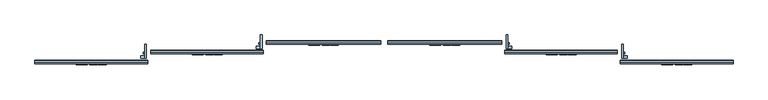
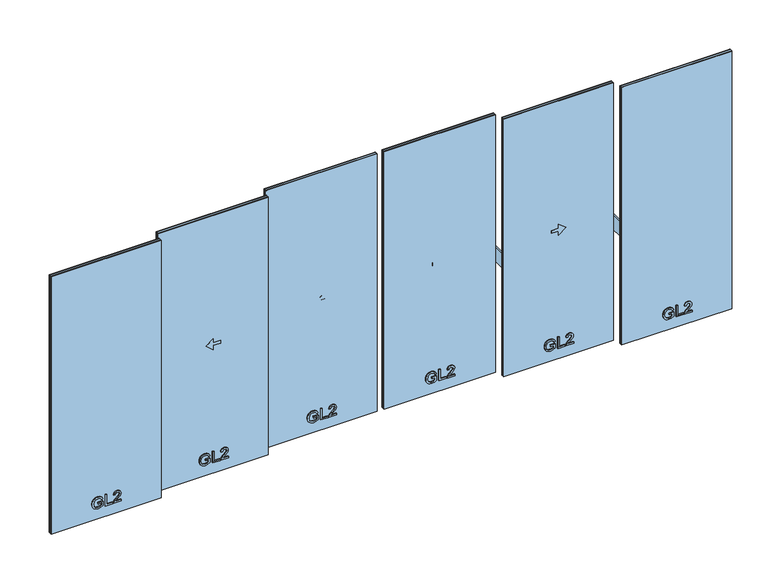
"""IFC4 building model written with IfcOpenShell, lengths in millimetres: window geometry, XL_XHS-9-3E_Metaglas : XL_XHS-9-3E_Metaglas."""

import ifcopenshell
import ifcopenshell.guid

model = None  # the IFC model being written
_history = None  # IfcOwnerHistory: only IFC2X3 demands one
_inside = {}  # id of a spatial element -> (the spatial element, [elements in it])
_under = {}  # id of a project, library or spatial element -> (it, [spatial elements below it])
_declared = {}  # id of a project -> (the project, [libraries it declares])
_typed = {}  # id of a type object -> (the type object, [elements of that type])
_made_of = {}  # id of a material, layer set ... -> (it, [elements and type objects made of it])


def new_model(schema):
    """Start an empty IFC model of exactly this schema.

    Asked for "IFC4X3", IfcOpenShell would pick the latest addendum, in which some entities
    have other attributes; the version numbers below select the first issue.
    IFC2X3 requires an IfcOwnerHistory on every rooted entity: one is made here for all.
    """
    global model, _history
    if schema == "IFC4X3":
        model = ifcopenshell.file(schema_version=(4, 3, 0, 0))
    else:
        model = ifcopenshell.file(schema=schema)
    _inside.clear()
    _under.clear()
    _declared.clear()
    _typed.clear()
    _made_of.clear()
    _history = None
    if model.schema == "IFC2X3":
        org = make("IfcOrganization", Name="unknown")
        user = make(
            "IfcPersonAndOrganization",
            ThePerson=make("IfcPerson", FamilyName="unknown"),
            TheOrganization=org,
        )
        app = make(
            "IfcApplication",
            ApplicationDeveloper=org,
            Version="unknown",
            ApplicationFullName="unknown",
            ApplicationIdentifier="unknown",
        )
        _history = make(
            "IfcOwnerHistory",
            OwningUser=user,
            OwningApplication=app,
            ChangeAction="ADDED",
            CreationDate=0,
        )
    return model


def make(cls, **values):
    """One entity of the class cls with the attributes given. An attribute that is None is left unset."""
    return model.create_entity(
        cls, **{name: value for name, value in values.items() if value is not None}
    )


def rooted(cls, **values):
    """An entity with a GlobalId (a new one), such as an element, a storey or a relation."""
    return make(cls, GlobalId=ifcopenshell.guid.new(), OwnerHistory=_history, **values)


def si_unit(unit_type, name, prefix=None):
    """IfcSIUnit, for example si_unit("LENGTHUNIT", "METRE", prefix="MILLI")."""
    return make("IfcSIUnit", UnitType=unit_type, Prefix=prefix, Name=name)


def assignment(units):
    """IfcUnitAssignment: the units of a project."""
    return None if units is None else make("IfcUnitAssignment", Units=units)


def point(xyz):
    """IfcCartesianPoint."""
    return None if xyz is None else make("IfcCartesianPoint", Coordinates=xyz)


def direction(xyz):
    """IfcDirection."""
    return None if xyz is None else make("IfcDirection", DirectionRatios=xyz)


def frame(location, z_axis=None, x_axis=None):
    """IfcAxis2Placement3D, a coordinate frame: its origin and axes. An axis left out is left unset."""
    return make(
        "IfcAxis2Placement3D",
        Location=point(location),
        Axis=direction(z_axis),
        RefDirection=direction(x_axis),
    )


def frame_2d(location, x_axis=None):
    """IfcAxis2Placement2D, a coordinate frame in the plane: its origin and x axis."""
    return make(
        "IfcAxis2Placement2D", Location=point(location), RefDirection=direction(x_axis)
    )


def origin():
    """The frame at (0, 0, 0) with its axes left unset."""
    return frame((0.0, 0.0, 0.0))


def place(relative_to, where):
    """IfcLocalPlacement: puts the frame where relative to a parent placement (None: the world)."""
    return make(
        "IfcLocalPlacement", PlacementRelTo=relative_to, RelativePlacement=where
    )


def context(
    kind, dimensions, precision=None, world=None, true_north=None, identifier=None
):
    """IfcGeometricRepresentationContext, for example the 3D "Model" context."""
    return make(
        "IfcGeometricRepresentationContext",
        ContextIdentifier=identifier,
        ContextType=kind,
        CoordinateSpaceDimension=dimensions,
        Precision=precision,
        WorldCoordinateSystem=world,
        TrueNorth=true_north,
    )


def project(units=None, contexts=None):
    """IfcProject with its units and contexts."""
    return rooted(
        "IfcProject",
        Name="project",
        RepresentationContexts=contexts,
        UnitsInContext=assignment(units),
    )


def spatial(cls, under=None, at=None, **own):
    """A site, building, storey or space (cls), placed at a placement, below another one or the project."""
    s = rooted(cls, ObjectPlacement=at, **own)
    if under is not None:
        _under.setdefault(under.id(), (under, []))[1].append(s)
    return s


def polyline(points):
    """IfcPolyline through the points."""
    return make("IfcPolyline", Points=[point(p) for p in points])


def circle_curve(where, radius):
    """IfcCircle in the frame where."""
    return make("IfcCircle", Position=where, Radius=radius)


def trimmed(basis, trim1, trim2, sense, master):
    """IfcTrimmedCurve: the piece of a basis curve between two trims."""
    return make(
        "IfcTrimmedCurve",
        BasisCurve=basis,
        Trim1=trim1,
        Trim2=trim2,
        SenseAgreement=sense,
        MasterRepresentation=master,
    )


def segment(curve, same_sense, transition):
    """IfcCompositeCurveSegment."""
    return make(
        "IfcCompositeCurveSegment",
        Transition=transition,
        SameSense=same_sense,
        ParentCurve=curve,
    )


def composite_curve(segments, self_intersect=None):
    """IfcCompositeCurve: segments joined end to end."""
    return make("IfcCompositeCurve", Segments=segments, SelfIntersect=self_intersect)


def outline(outer, holes=None, kind="AREA"):
    """IfcArbitraryClosedProfileDef: a profile drawn as a closed curve; with holes, ...WithVoids."""
    if holes is None:
        return make("IfcArbitraryClosedProfileDef", ProfileType=kind, OuterCurve=outer)
    return make(
        "IfcArbitraryProfileDefWithVoids",
        ProfileType=kind,
        OuterCurve=outer,
        InnerCurves=holes,
    )


def extrude(swept, where, along, depth):
    """IfcExtrudedAreaSolid: the profile swept, set in the frame where, extruded along a direction by depth."""
    return make(
        "IfcExtrudedAreaSolid",
        SweptArea=swept,
        Position=where,
        ExtrudedDirection=direction(along),
        Depth=depth,
    )


def shape(context_of_items, identifier, shape_type, items):
    """IfcShapeRepresentation: the items that make up one representation, for example the "Body"."""
    return make(
        "IfcShapeRepresentation",
        ContextOfItems=context_of_items,
        RepresentationIdentifier=identifier,
        RepresentationType=shape_type,
        Items=items,
    )


def source(mapping_origin, context_of_items, identifier, shape_type, items):
    """IfcRepresentationMap: a shape defined once, which mapped items show again and again."""
    return make(
        "IfcRepresentationMap",
        MappingOrigin=mapping_origin,
        MappedRepresentation=shape(context_of_items, identifier, shape_type, items),
    )


def transform(
    local_origin,
    x_axis=None,
    y_axis=None,
    z_axis=None,
    scale=None,
    scale2=None,
    scale3=None,
    uniform=True,
):
    """IfcCartesianTransformationOperator3D, or its non-uniform kind. x_axis, y_axis, z_axis: its Axis1, 2, 3."""
    if uniform:
        return make(
            "IfcCartesianTransformationOperator3D",
            Axis1=direction(x_axis),
            Axis2=direction(y_axis),
            LocalOrigin=point(local_origin),
            Scale=scale,
            Axis3=direction(z_axis),
        )
    return make(
        "IfcCartesianTransformationOperator3DnonUniform",
        Axis1=direction(x_axis),
        Axis2=direction(y_axis),
        LocalOrigin=point(local_origin),
        Scale=scale,
        Axis3=direction(z_axis),
        Scale2=scale2,
        Scale3=scale3,
    )


def mapped(mapping_source, mapping_target):
    """IfcMappedItem: shows the shape of a source again, moved by a transform."""
    return make(
        "IfcMappedItem", MappingSource=mapping_source, MappingTarget=mapping_target
    )


def made_of(thing, what):
    """Note that an element or type object is made of a material, layer set ...; save() writes the relation."""
    if what is not None:
        _made_of.setdefault(what.id(), (what, []))[1].append(thing)
    return thing


def element(
    cls,
    number,
    at=None,
    inside=None,
    cuts=None,
    type_object=None,
    material=None,
    context=None,
    identifier="Body",
    shape_type=None,
    held_by="IfcProductDefinitionShape",
    body=None,
    shapes=None,
    **own,
):
    """One element of the class cls, such as IfcWall. Its Tag is "e" and its number.

    at: its placement. inside: the storey or other place that contains it. cuts: it is an
    opening in that element (IfcRelVoidsElement). A single representation is given by context,
    identifier, shape_type and body (its items); several are given by shapes. held_by: the class
    of the entity that holds the representations. save() writes the other relations.
    """
    e = rooted(cls, Tag="e%d" % number, ObjectPlacement=at, **own)
    if body is not None:
        shapes = [shape(context, identifier, shape_type, body)]
    if shapes is not None:
        e.Representation = make(held_by, Representations=shapes)
    if inside is not None:
        _inside.setdefault(inside.id(), (inside, []))[1].append(e)
    if cuts is not None:
        rooted(
            "IfcRelVoidsElement", RelatingBuildingElement=cuts, RelatedOpeningElement=e
        )
    if type_object is not None:
        _typed.setdefault(type_object.id(), (type_object, []))[1].append(e)
    return made_of(e, material)


def aggregate(whole, parts):
    """IfcRelAggregates: a whole, such as a stair, and the parts it consists of."""
    return rooted("IfcRelAggregates", RelatingObject=whole, RelatedObjects=parts)


def save(model, path):
    """Write the relations noted so far, then the file.

    IfcRelAggregates (storeys below a building ...), IfcRelContainedInSpatialStructure (elements
    in a storey), IfcRelDefinesByType, IfcRelAssociatesMaterial and IfcRelDeclares: one each for
    every whole, place, type object, material and project.
    """
    for whole, parts in _under.values():
        aggregate(whole, parts)
    for where, things in _inside.values():
        rooted(
            "IfcRelContainedInSpatialStructure",
            RelatedElements=things,
            RelatingStructure=where,
        )
    for kind, things in _typed.values():
        rooted("IfcRelDefinesByType", RelatedObjects=things, RelatingType=kind)
    for what, things in _made_of.values():
        rooted("IfcRelAssociatesMaterial", RelatedObjects=things, RelatingMaterial=what)
    for by, libraries in _declared.values():
        rooted("IfcRelDeclares", RelatingContext=by, RelatedDefinitions=libraries)
    model.write(path)


def window_bfaaae80(model_context):
    return source(origin(), model_context, "Body", "SweptSolid", [
        extrude(outline(polyline([(1263.3, 1416.75), (1238.3, 1416.75), (1238.3, 1479.05), (1201.4, 1479.05), (1250.8, 1541.35), (1300.2, 1479.05), (1263.3, 1479.05), (1263.3, 1416.75)])), frame((0.0, 56.8, 0.0), z_axis=(0.0, 1.0, 0.0), x_axis=(0.0, 0.0, 1.0)), (0.0, 0.0, 1.0), 10.0),
        extrude(outline(polyline([(1009.55, 62.8), (1948.55, 62.8), (1948.55, 56.8), (1009.55, 56.8), (1009.55, 62.8)])), frame((0.0, 0.0, 85.6), z_axis=(0.0, 0.0, 1.0), x_axis=(1.0, 0.0, 0.0)), (0.0, 0.0, 1.0), 2330.4),
        extrude(outline(polyline([(2416.0, 1948.55), (2416.0, 1009.55), (85.6, 1009.55), (85.6, 1948.55), (2416.0, 1948.55)]), holes=[polyline([(98.6, 1935.55), (98.6, 1022.55), (2403.0, 1022.55), (2403.0, 1935.55), (98.6, 1935.55)])]), frame((0.0, 62.8, 0.0), z_axis=(0.0, 1.0, 0.0), x_axis=(0.0, 0.0, 1.0)), (0.0, 0.0, 1.0), 17.0),
        extrude(outline(polyline([(224.3483029, 1406.0622122), (224.3483029, 1434.3155494), (206.1994578, 1434.3155494), (199.3200645, 1421.5990951), (196.0949657, 1404.4190059), (200.3746595, 1385.2768794), (213.4712586, 1371.5426183), (235.3602373, 1366.821466), (255.0787122, 1370.7455406), (264.7540087, 1377.208001), (271.8663939, 1388.146359), (274.576458, 1404.2228022), (272.0625977, 1418.3372081), (265.3671454, 1428.1228691), (253.754337, 1433.8495655), (257.0162241, 1445.4255856), (273.6322275, 1437.8349538), (283.5650414, 1424.0639045), (287.1334967, 1404.4190059), (285.5945237, 1390.3291255), (280.9776047, 1377.9805532), (273.1938348, 1367.8423385), (262.1543093, 1360.3835311), (248.9933309, 1355.7942032), (234.8452025, 1354.2644272), (220.7982416, 1355.8003346), (208.1369696, 1360.4080566), (197.5818221, 1368.0293452), (189.8532345, 1378.6059526), (185.1167538, 1391.3377353), (183.5379269, 1405.42455), (187.5110524, 1426.7249176), (199.3568527, 1446.8725882), (236.9053417, 1446.8725882), (236.9053417, 1406.0622122), (224.3483029, 1406.0622122)])), frame((0.0, 46.8, 0.0), z_axis=(0.0, 1.0, 0.0), x_axis=(0.0, 0.0, 1.0)), (0.0, 0.0, 1.0), 10.0),
        extrude(outline(polyline([(185.1075567, 1467.2777762), (185.1075567, 1530.06297), (197.6645955, 1530.06297), (197.6645955, 1479.8348149), (285.5638669, 1479.8348149), (285.5638669, 1467.2777762), (185.1075567, 1467.2777762)])), frame((0.0, 46.8, 0.0), z_axis=(0.0, 1.0, 0.0), x_axis=(0.0, 0.0, 1.0)), (0.0, 0.0, 1.0), 10.0),
        extrude(outline(polyline([(197.6645955, 1603.8355728), (197.6645955, 1554.5148599), (204.0534795, 1560.1802427), (216.1322717, 1574.6257423), (233.3368863, 1592.6151719), (245.6486704, 1600.0341255), (257.5557843, 1602.2659429), (268.506405, 1600.1966067), (277.5195139, 1593.988598), (283.5527787, 1584.2305281), (285.5638669, 1571.5110081), (283.7551137, 1558.8834586), (278.3288543, 1549.1069946), (269.4567669, 1542.5249726), (257.3105297, 1539.4807491), (255.7408998, 1552.0377878), (268.4205659, 1557.3230258), (273.0068281, 1571.241228), (268.3102013, 1584.5953444), (256.7954949, 1589.7089041), (242.5707244, 1584.3010388), (221.6505016, 1562.6327893), (207.0946373, 1546.8997026), (193.7650464, 1539.2600199), (185.1075567, 1537.9111192), (185.1075567, 1603.8355728), (197.6645955, 1603.8355728)])), frame((0.0, 46.8, 0.0), z_axis=(0.0, 1.0, 0.0), x_axis=(0.0, 0.0, 1.0)), (0.0, 0.0, 1.0), 10.0),
        extrude(outline(polyline([(1009.55, 62.8), (1948.55, 62.8), (1948.55, 59.8), (1009.55, 59.8), (1009.55, 62.8)])), frame((0.0, 0.0, 85.6), z_axis=(0.0, 0.0, 1.0), x_axis=(1.0, 0.0, 0.0)), (0.0, 0.0, 1.0), 2330.4),
        extrude(outline(polyline([(1009.55, 59.8), (1948.55, 59.8), (1948.55, 56.8), (1009.55, 56.8), (1009.55, 59.8)])), frame((0.0, 0.0, 85.6), z_axis=(0.0, 0.0, 1.0), x_axis=(1.0, 0.0, 0.0)), (0.0, 0.0, 1.0), 2330.4),
        extrude(outline(polyline([(1009.55, 85.8), (1948.55, 85.8), (1948.55, 82.8), (1009.55, 82.8), (1009.55, 85.8)])), frame((0.0, 0.0, 85.6), z_axis=(0.0, 0.0, 1.0), x_axis=(1.0, 0.0, 0.0)), (0.0, 0.0, 1.0), 2330.4),
        extrude(outline(polyline([(1009.55, 82.8), (1948.55, 82.8), (1948.55, 79.8), (1009.55, 79.8), (1009.55, 82.8)])), frame((0.0, 0.0, 85.6), z_axis=(0.0, 0.0, 1.0), x_axis=(1.0, 0.0, 0.0)), (0.0, 0.0, 1.0), 2330.4),
        extrude(outline(composite_curve([segment(trimmed(circle_curve(frame_2d((27.9933183, 1063.3761618)), 10.0), [point((17.9933183, 1063.3761618))], [point((37.9933183, 1063.3761618))], False, "CARTESIAN"), True, "CONTINUOUS"), segment(trimmed(circle_curve(frame_2d((27.9933183, 1063.3761618)), 10.0), [point((37.9933183, 1063.3761618))], [point((17.9933183, 1063.3761618))], False, "CARTESIAN"), True, "CONTINUOUS")], self_intersect=False)), frame((1999.3, 0.0, 0.0), z_axis=(1.0, 0.0, 0.0), x_axis=(0.0, 1.0, 0.0)), (0.0, 0.0, 1.0), 33.0),
        extrude(outline(polyline([(1999.3, 53.9933183), (1999.3, 67.9933183), (2012.3, 67.9933183), (2012.3, 53.9933183), (1999.3, 53.9933183)])), frame((0.0, 0.0, 1080.3761618), z_axis=(0.0, 0.0, 1.0), x_axis=(1.0, 0.0, 0.0)), (0.0, 0.0, 1.0), 65.0),
        extrude(outline(polyline([(1999.3, 132.9933183), (1999.3, 15.9933183), (1985.3, 15.9933183), (1985.3, 132.9933183), (1999.3, 132.9933183)])), frame((0.0, 0.0, 1037.8761618), z_axis=(0.0, 0.0, 1.0), x_axis=(1.0, 0.0, 0.0)), (0.0, 0.0, 1.0), 127.0),
        extrude(outline(polyline([(1238.3, -1415.65), (1263.3, -1415.65), (1263.3, -1477.95), (1300.2, -1477.95), (1250.8, -1540.25), (1201.4, -1477.95), (1238.3, -1477.95), (1238.3, -1415.65)])), frame((0.0, 56.8013279, 0.0), z_axis=(0.0, 1.0, 0.0), x_axis=(0.0, 0.0, 1.0)), (0.0, 0.0, 1.0), 10.0),
        extrude(outline(composite_curve([segment(trimmed(circle_curve(frame_2d((27.9835782, 1063.3761618)), 10.0), [point((17.9835782, 1063.3761618))], [point((37.9835782, 1063.3761618))], False, "CARTESIAN"), True, "CONTINUOUS"), segment(trimmed(circle_curve(frame_2d((27.9835782, 1063.3761618)), 10.0), [point((37.9835782, 1063.3761618))], [point((17.9835782, 1063.3761618))], False, "CARTESIAN"), True, "CONTINUOUS")], self_intersect=False)), frame((-2032.3, 0.0, 0.0), z_axis=(1.0, 0.0, 0.0), x_axis=(0.0, 1.0, 0.0)), (0.0, 0.0, 1.0), 33.0),
        extrude(outline(polyline([(-1999.3, 67.9835782), (-1999.3, 53.9835782), (-2012.3, 53.9835782), (-2012.3, 67.9835782), (-1999.3, 67.9835782)])), frame((0.0, 0.0, 1080.3761618), z_axis=(0.0, 0.0, 1.0), x_axis=(1.0, 0.0, 0.0)), (0.0, 0.0, 1.0), 65.0),
        extrude(outline(polyline([(-1985.3, 132.9835782), (-1985.3, 15.9835782), (-1999.3, 15.9835782), (-1999.3, 132.9835782), (-1985.3, 132.9835782)])), frame((0.0, 0.0, 1037.8761618), z_axis=(0.0, 0.0, 1.0), x_axis=(1.0, 0.0, 0.0)), (0.0, 0.0, 1.0), 127.0),
        extrude(outline(polyline([(-1948.55, 62.8013279), (-1007.35, 62.8013279), (-1007.35, 56.8013279), (-1948.55, 56.8013279), (-1948.55, 62.8013279)])), frame((0.0, 0.0, 85.6), z_axis=(0.0, 0.0, 1.0), x_axis=(1.0, 0.0, 0.0)), (0.0, 0.0, 1.0), 2330.4),
        extrude(outline(polyline([(2416.0, -1007.35), (2416.0, -1948.55), (85.6, -1948.55), (85.6, -1007.35), (2416.0, -1007.35)]), holes=[polyline([(98.6, -1020.35), (98.6, -1935.55), (2403.0, -1935.55), (2403.0, -1020.35), (98.6, -1020.35)])]), frame((0.0, 62.8013279, 0.0), z_axis=(0.0, 1.0, 0.0), x_axis=(0.0, 0.0, 1.0)), (0.0, 0.0, 1.0), 17.0),
        extrude(outline(polyline([(224.3483029, -1550.9377878), (224.3483029, -1522.6844506), (206.1994578, -1522.6844506), (199.3200645, -1535.4009049), (196.0949657, -1552.5809941), (200.3746595, -1571.7231206), (213.4712586, -1585.4573817), (235.3602373, -1590.178534), (255.0787122, -1586.2544594), (264.7540087, -1579.791999), (271.8663939, -1568.853641), (274.576458, -1552.7771978), (272.0625977, -1538.6627919), (265.3671454, -1528.8771309), (253.754337, -1523.1504345), (257.0162241, -1511.5744144), (273.6322275, -1519.1650462), (283.5650414, -1532.9360955), (287.1334967, -1552.5809941), (285.5945237, -1566.6708745), (280.9776047, -1579.0194468), (273.1938348, -1589.1576615), (262.1543093, -1596.6164689), (248.9933309, -1601.2057968), (234.8452025, -1602.7355728), (220.7982416, -1601.1996654), (208.1369696, -1596.5919434), (197.5818221, -1588.9706548), (189.8532345, -1578.3940474), (185.1167538, -1565.6622647), (183.5379269, -1551.57545), (187.5110524, -1530.2750824), (199.3568527, -1510.1274118), (236.9053417, -1510.1274118), (236.9053417, -1550.9377878), (224.3483029, -1550.9377878)])), frame((0.0, 46.8013279, 0.0), z_axis=(0.0, 1.0, 0.0), x_axis=(0.0, 0.0, 1.0)), (0.0, 0.0, 1.0), 10.0),
        extrude(outline(polyline([(185.1075567, -1489.7222238), (185.1075567, -1426.93703), (197.6645955, -1426.93703), (197.6645955, -1477.1651851), (285.5638669, -1477.1651851), (285.5638669, -1489.7222238), (185.1075567, -1489.7222238)])), frame((0.0, 46.8013279, 0.0), z_axis=(0.0, 1.0, 0.0), x_axis=(0.0, 0.0, 1.0)), (0.0, 0.0, 1.0), 10.0),
        extrude(outline(polyline([(197.6645955, -1353.1644272), (197.6645955, -1402.4851401), (204.0534795, -1396.8197573), (216.1322717, -1382.3742577), (233.3368863, -1364.3848281), (245.6486704, -1356.9658745), (257.5557843, -1354.7340571), (268.506405, -1356.8033933), (277.5195139, -1363.011402), (283.5527787, -1372.7694719), (285.5638669, -1385.4889919), (283.7551137, -1398.1165414), (278.3288543, -1407.8930054), (269.4567669, -1414.4750274), (257.3105297, -1417.5192509), (255.7408998, -1404.9622122), (268.4205659, -1399.6769742), (273.0068281, -1385.758772), (268.3102013, -1372.4046556), (256.7954949, -1367.2910959), (242.5707244, -1372.6989612), (221.6505016, -1394.3672107), (207.0946373, -1410.1002974), (193.7650464, -1417.7399801), (185.1075567, -1419.0888808), (185.1075567, -1353.1644272), (197.6645955, -1353.1644272)])), frame((0.0, 46.8013279, 0.0), z_axis=(0.0, 1.0, 0.0), x_axis=(0.0, 0.0, 1.0)), (0.0, 0.0, 1.0), 10.0),
        extrude(outline(polyline([(-1948.55, 62.8013279), (-1007.35, 62.8013279), (-1007.35, 59.8013279), (-1948.55, 59.8013279), (-1948.55, 62.8013279)])), frame((0.0, 0.0, 85.6), z_axis=(0.0, 0.0, 1.0), x_axis=(1.0, 0.0, 0.0)), (0.0, 0.0, 1.0), 2330.4),
        extrude(outline(polyline([(-1948.55, 59.8013279), (-1007.35, 59.8013279), (-1007.35, 56.8013279), (-1948.55, 56.8013279), (-1948.55, 59.8013279)])), frame((0.0, 0.0, 85.6), z_axis=(0.0, 0.0, 1.0), x_axis=(1.0, 0.0, 0.0)), (0.0, 0.0, 1.0), 2330.4),
        extrude(outline(polyline([(-1948.55, 85.8013279), (-1007.35, 85.8013279), (-1007.35, 82.8013279), (-1948.55, 82.8013279), (-1948.55, 85.8013279)])), frame((0.0, 0.0, 85.6), z_axis=(0.0, 0.0, 1.0), x_axis=(1.0, 0.0, 0.0)), (0.0, 0.0, 1.0), 2330.4),
        extrude(outline(polyline([(-1948.55, 82.8013279), (-1007.35, 82.8013279), (-1007.35, 79.8013279), (-1948.55, 79.8013279), (-1948.55, 82.8013279)])), frame((0.0, 0.0, 85.6), z_axis=(0.0, 0.0, 1.0), x_axis=(1.0, 0.0, 0.0)), (0.0, 0.0, 1.0), 2330.4),
        extrude(outline(polyline([(1974.05, -22.0486721), (2916.0, -22.0486721), (2916.0, -28.0486721), (1974.05, -28.0486721), (1974.05, -22.0486721)])), frame((0.0, 0.0, 85.6), z_axis=(0.0, 0.0, 1.0), x_axis=(1.0, 0.0, 0.0)), (0.0, 0.0, 1.0), 2330.4),
        extrude(outline(polyline([(2416.0, 2916.0), (2416.0, 1974.05), (85.6, 1974.05), (85.6, 2916.0), (2416.0, 2916.0)]), holes=[polyline([(98.6, 2903.0), (98.6, 1987.05), (2403.0, 1987.05), (2403.0, 2903.0), (98.6, 2903.0)])]), frame((0.0, -22.0486721, 0.0), z_axis=(0.0, 1.0, 0.0), x_axis=(0.0, 0.0, 1.0)), (0.0, 0.0, 1.0), 17.0),
        extrude(outline(polyline([(224.3483029, 2372.0372122), (224.3483029, 2400.2905494), (206.1994578, 2400.2905494), (199.3200645, 2387.5740951), (196.0949657, 2370.3940059), (200.3746595, 2351.2518794), (213.4712586, 2337.5176183), (235.3602373, 2332.796466), (255.0787122, 2336.7205406), (264.7540087, 2343.183001), (271.8663939, 2354.121359), (274.576458, 2370.1978022), (272.0625977, 2384.3122081), (265.3671454, 2394.0978691), (253.754337, 2399.8245655), (257.0162241, 2411.4005856), (273.6322275, 2403.8099538), (283.5650414, 2390.0389045), (287.1334967, 2370.3940059), (285.5945237, 2356.3041255), (280.9776047, 2343.9555532), (273.1938348, 2333.8173385), (262.1543093, 2326.3585311), (248.9933309, 2321.7692032), (234.8452025, 2320.2394272), (220.7982416, 2321.7753346), (208.1369696, 2326.3830566), (197.5818221, 2334.0043452), (189.8532345, 2344.5809526), (185.1167538, 2357.3127353), (183.5379269, 2371.39955), (187.5110524, 2392.6999176), (199.3568527, 2412.8475882), (236.9053417, 2412.8475882), (236.9053417, 2372.0372122), (224.3483029, 2372.0372122)])), frame((0.0, -38.0486721, 0.0), z_axis=(0.0, 1.0, 0.0), x_axis=(0.0, 0.0, 1.0)), (0.0, 0.0, 1.0), 10.0),
        extrude(outline(polyline([(185.1075567, 2433.2527762), (185.1075567, 2496.03797), (197.6645955, 2496.03797), (197.6645955, 2445.8098149), (285.5638669, 2445.8098149), (285.5638669, 2433.2527762), (185.1075567, 2433.2527762)])), frame((0.0, -38.0486721, 0.0), z_axis=(0.0, 1.0, 0.0), x_axis=(0.0, 0.0, 1.0)), (0.0, 0.0, 1.0), 10.0),
        extrude(outline(polyline([(197.6645955, 2569.8105728), (197.6645955, 2520.4898599), (204.0534795, 2526.1552427), (216.1322717, 2540.6007423), (233.3368863, 2558.5901719), (245.6486704, 2566.0091255), (257.5557843, 2568.2409429), (268.506405, 2566.1716067), (277.5195139, 2559.963598), (283.5527787, 2550.2055281), (285.5638669, 2537.4860081), (283.7551137, 2524.8584586), (278.3288543, 2515.0819946), (269.4567669, 2508.4999726), (257.3105297, 2505.4557491), (255.7408998, 2518.0127878), (268.4205659, 2523.2980258), (273.0068281, 2537.216228), (268.3102013, 2550.5703444), (256.7954949, 2555.6839041), (242.5707244, 2550.2760388), (221.6505016, 2528.6077893), (207.0946373, 2512.8747026), (193.7650464, 2505.2350199), (185.1075567, 2503.8861192), (185.1075567, 2569.8105728), (197.6645955, 2569.8105728)])), frame((0.0, -38.0486721, 0.0), z_axis=(0.0, 1.0, 0.0), x_axis=(0.0, 0.0, 1.0)), (0.0, 0.0, 1.0), 10.0),
        extrude(outline(polyline([(1974.05, -22.0486721), (2916.0, -22.0486721), (2916.0, -25.0486721), (1974.05, -25.0486721), (1974.05, -22.0486721)])), frame((0.0, 0.0, 85.6), z_axis=(0.0, 0.0, 1.0), x_axis=(1.0, 0.0, 0.0)), (0.0, 0.0, 1.0), 2330.4),
        extrude(outline(polyline([(1974.05, -25.0486721), (2916.0, -25.0486721), (2916.0, -28.0486721), (1974.05, -28.0486721), (1974.05, -25.0486721)])), frame((0.0, 0.0, 85.6), z_axis=(0.0, 0.0, 1.0), x_axis=(1.0, 0.0, 0.0)), (0.0, 0.0, 1.0), 2330.4),
        extrude(outline(polyline([(1974.05, 0.9513279), (2916.0, 0.9513279), (2916.0, -2.0486721), (1974.05, -2.0486721), (1974.05, 0.9513279)])), frame((0.0, 0.0, 85.6), z_axis=(0.0, 0.0, 1.0), x_axis=(1.0, 0.0, 0.0)), (0.0, 0.0, 1.0), 2330.4),
        extrude(outline(polyline([(1974.05, -2.0486721), (2916.0, -2.0486721), (2916.0, -5.0486721), (1974.05, -5.0486721), (1974.05, -2.0486721)])), frame((0.0, 0.0, 85.6), z_axis=(0.0, 0.0, 1.0), x_axis=(1.0, 0.0, 0.0)), (0.0, 0.0, 1.0), 2330.4),
        extrude(outline(polyline([(31.35, 142.4), (984.05, 142.4), (984.05, 136.4), (31.35, 136.4), (31.35, 142.4)])), frame((0.0, 0.0, 85.6), z_axis=(0.0, 0.0, 1.0), x_axis=(1.0, 0.0, 0.0)), (0.0, 0.0, 1.0), 2330.4),
        extrude(outline(polyline([(2416.0, 984.05), (2416.0, 31.35), (85.6, 31.35), (85.6, 984.05), (2416.0, 984.05)]), holes=[polyline([(98.6, 971.05), (98.6, 44.35), (2403.0, 44.35), (2403.0, 971.05), (98.6, 971.05)])]), frame((0.0, 142.4, 0.0), z_axis=(0.0, 1.0, 0.0), x_axis=(0.0, 0.0, 1.0)), (0.0, 0.0, 1.0), 17.0),
        extrude(outline(polyline([(224.3483029, 434.7122122), (224.3483029, 462.9655494), (206.1994578, 462.9655494), (199.3200645, 450.2490951), (196.0949657, 433.0690059), (200.3746595, 413.9268794), (213.4712586, 400.1926183), (235.3602373, 395.471466), (255.0787122, 399.3955406), (264.7540087, 405.858001), (271.8663939, 416.796359), (274.576458, 432.8728022), (272.0625977, 446.9872081), (265.3671454, 456.7728691), (253.754337, 462.4995655), (257.0162241, 474.0755856), (273.6322275, 466.4849538), (283.5650414, 452.7139045), (287.1334967, 433.0690059), (285.5945237, 418.9791255), (280.9776047, 406.6305532), (273.1938348, 396.4923385), (262.1543093, 389.0335311), (248.9933309, 384.4442032), (234.8452025, 382.9144272), (220.7982416, 384.4503346), (208.1369696, 389.0580566), (197.5818221, 396.6793452), (189.8532345, 407.2559526), (185.1167538, 419.9877353), (183.5379269, 434.07455), (187.5110524, 455.3749176), (199.3568527, 475.5225882), (236.9053417, 475.5225882), (236.9053417, 434.7122122), (224.3483029, 434.7122122)])), frame((0.0, 126.4, 0.0), z_axis=(0.0, 1.0, 0.0), x_axis=(0.0, 0.0, 1.0)), (0.0, 0.0, 1.0), 10.0),
        extrude(outline(polyline([(185.1075567, 495.9277762), (185.1075567, 558.71297), (197.6645955, 558.71297), (197.6645955, 508.4848149), (285.5638669, 508.4848149), (285.5638669, 495.9277762), (185.1075567, 495.9277762)])), frame((0.0, 126.4, 0.0), z_axis=(0.0, 1.0, 0.0), x_axis=(0.0, 0.0, 1.0)), (0.0, 0.0, 1.0), 10.0),
        extrude(outline(polyline([(197.6645955, 632.4855728), (197.6645955, 583.1648599), (204.0534795, 588.8302427), (216.1322717, 603.2757423), (233.3368863, 621.2651719), (245.6486704, 628.6841255), (257.5557843, 630.9159429), (268.506405, 628.8466067), (277.5195139, 622.638598), (283.5527787, 612.8805281), (285.5638669, 600.1610081), (283.7551137, 587.5334586), (278.3288543, 577.7569946), (269.4567669, 571.1749726), (257.3105297, 568.1307491), (255.7408998, 580.6877878), (268.4205659, 585.9730258), (273.0068281, 599.891228), (268.3102013, 613.2453444), (256.7954949, 618.3589041), (242.5707244, 612.9510388), (221.6505016, 591.2827893), (207.0946373, 575.5497026), (193.7650464, 567.9100199), (185.1075567, 566.5611192), (185.1075567, 632.4855728), (197.6645955, 632.4855728)])), frame((0.0, 126.4, 0.0), z_axis=(0.0, 1.0, 0.0), x_axis=(0.0, 0.0, 1.0)), (0.0, 0.0, 1.0), 10.0),
        extrude(outline(polyline([(31.35, 142.4), (984.05, 142.4), (984.05, 139.4), (31.35, 139.4), (31.35, 142.4)])), frame((0.0, 0.0, 85.6), z_axis=(0.0, 0.0, 1.0), x_axis=(1.0, 0.0, 0.0)), (0.0, 0.0, 1.0), 2330.4),
        extrude(outline(polyline([(31.35, 139.4), (984.05, 139.4), (984.05, 136.4), (31.35, 136.4), (31.35, 139.4)])), frame((0.0, 0.0, 85.6), z_axis=(0.0, 0.0, 1.0), x_axis=(1.0, 0.0, 0.0)), (0.0, 0.0, 1.0), 2330.4),
        extrude(outline(polyline([(31.35, 165.4), (984.05, 165.4), (984.05, 162.4), (31.35, 162.4), (31.35, 165.4)])), frame((0.0, 0.0, 85.6), z_axis=(0.0, 0.0, 1.0), x_axis=(1.0, 0.0, 0.0)), (0.0, 0.0, 1.0), 2330.4),
        extrude(outline(polyline([(31.35, 162.4), (984.05, 162.4), (984.05, 159.4), (31.35, 159.4), (31.35, 162.4)])), frame((0.0, 0.0, 85.6), z_axis=(0.0, 0.0, 1.0), x_axis=(1.0, 0.0, 0.0)), (0.0, 0.0, 1.0), 2330.4),
        extrude(outline(composite_curve([segment(trimmed(circle_curve(frame_2d((107.5933183, 1063.3761618)), 10.0), [point((97.5933183, 1063.3761618))], [point((117.5933183, 1063.3761618))], False, "CARTESIAN"), True, "CONTINUOUS"), segment(trimmed(circle_curve(frame_2d((107.5933183, 1063.3761618)), 10.0), [point((117.5933183, 1063.3761618))], [point((97.5933183, 1063.3761618))], False, "CARTESIAN"), True, "CONTINUOUS")], self_intersect=False)), frame((1034.8, 0.0, 0.0), z_axis=(1.0, 0.0, 0.0), x_axis=(0.0, 1.0, 0.0)), (0.0, 0.0, 1.0), 33.0),
        extrude(outline(polyline([(1034.8, 133.5933183), (1034.8, 147.5933183), (1047.8, 147.5933183), (1047.8, 133.5933183), (1034.8, 133.5933183)])), frame((0.0, 0.0, 1080.3761618), z_axis=(0.0, 0.0, 1.0), x_axis=(1.0, 0.0, 0.0)), (0.0, 0.0, 1.0), 65.0),
        extrude(outline(polyline([(1034.8, 212.5933183), (1034.8, 95.5933183), (1020.8, 95.5933183), (1020.8, 212.5933183), (1034.8, 212.5933183)])), frame((0.0, 0.0, 1037.8761618), z_axis=(0.0, 0.0, 1.0), x_axis=(1.0, 0.0, 0.0)), (0.0, 0.0, 1.0), 127.0),
        extrude(outline(polyline([(1310.8, 2425.025), (1270.8, 2425.025), (1270.8, 2385.025), (1230.8, 2385.025), (1230.8, 2425.025), (1190.8, 2425.025), (1190.8, 2465.025), (1230.8, 2465.025), (1230.8, 2505.025), (1270.8, 2505.025), (1270.8, 2465.025), (1310.8, 2465.025), (1310.8, 2425.025)])), frame((0.0, -21.2986721, 0.0), z_axis=(0.0, 1.0, 0.0), x_axis=(0.0, 0.0, 1.0)), (0.0, 0.0, 1.0), 10.0),
        extrude(outline(polyline([(1263.3, 445.4), (1238.3, 445.4), (1238.3, 507.7), (1201.4, 507.7), (1250.8, 570.0), (1300.2, 507.7), (1263.3, 507.7), (1263.3, 445.4)])), frame((0.0, 137.9013279, 0.0), z_axis=(0.0, 1.0, 0.0), x_axis=(0.0, 0.0, 1.0)), (0.0, 0.0, 1.0), 10.0),
        extrude(outline(composite_curve([segment(trimmed(circle_curve(frame_2d((107.5822502, 1063.3761618)), 10.0), [point((97.5822502, 1063.3761618))], [point((117.5822502, 1063.3761618))], False, "CARTESIAN"), True, "CONTINUOUS"), segment(trimmed(circle_curve(frame_2d((107.5822502, 1063.3761618)), 10.0), [point((117.5822502, 1063.3761618))], [point((97.5822502, 1063.3761618))], False, "CARTESIAN"), True, "CONTINUOUS")], self_intersect=False)), frame((-1065.6, 0.0, 0.0), z_axis=(1.0, 0.0, 0.0), x_axis=(0.0, 1.0, 0.0)), (0.0, 0.0, 1.0), 33.0),
        extrude(outline(polyline([(-1032.6, 147.5822502), (-1032.6, 133.5822502), (-1045.6, 133.5822502), (-1045.6, 147.5822502), (-1032.6, 147.5822502)])), frame((0.0, 0.0, 1080.3761618), z_axis=(0.0, 0.0, 1.0), x_axis=(1.0, 0.0, 0.0)), (0.0, 0.0, 1.0), 65.0),
        extrude(outline(polyline([(-1018.6, 212.5822502), (-1018.6, 95.5822502), (-1032.6, 95.5822502), (-1032.6, 212.5822502), (-1018.6, 212.5822502)])), frame((0.0, 0.0, 1037.8761618), z_axis=(0.0, 0.0, 1.0), x_axis=(1.0, 0.0, 0.0)), (0.0, 0.0, 1.0), 127.0),
        extrude(outline(polyline([(-981.85, 142.4), (-29.15, 142.4), (-29.15, 136.4), (-981.85, 136.4), (-981.85, 142.4)])), frame((0.0, 0.0, 85.6), z_axis=(0.0, 0.0, 1.0), x_axis=(1.0, 0.0, 0.0)), (0.0, 0.0, 1.0), 2330.4),
        extrude(outline(polyline([(2416.0, -29.15), (2416.0, -981.85), (85.6, -981.85), (85.6, -29.15), (2416.0, -29.15)]), holes=[polyline([(98.6, -42.15), (98.6, -968.85), (2403.0, -968.85), (2403.0, -42.15), (98.6, -42.15)])]), frame((0.0, 142.4, 0.0), z_axis=(0.0, 1.0, 0.0), x_axis=(0.0, 0.0, 1.0)), (0.0, 0.0, 1.0), 17.0),
        extrude(outline(polyline([(224.3483029, -578.4877878), (224.3483029, -550.2344506), (206.1994578, -550.2344506), (199.3200645, -562.9509049), (196.0949657, -580.1309941), (200.3746595, -599.2731206), (213.4712586, -613.0073817), (235.3602373, -617.728534), (255.0787122, -613.8044594), (264.7540087, -607.341999), (271.8663939, -596.403641), (274.576458, -580.3271978), (272.0625977, -566.2127919), (265.3671454, -556.4271309), (253.754337, -550.7004345), (257.0162241, -539.1244144), (273.6322275, -546.7150462), (283.5650414, -560.4860955), (287.1334967, -580.1309941), (285.5945237, -594.2208745), (280.9776047, -606.5694468), (273.1938348, -616.7076615), (262.1543093, -624.1664689), (248.9933309, -628.7557968), (234.8452025, -630.2855728), (220.7982416, -628.7496654), (208.1369696, -624.1419434), (197.5818221, -616.5206548), (189.8532345, -605.9440474), (185.1167538, -593.2122647), (183.5379269, -579.12545), (187.5110524, -557.8250824), (199.3568527, -537.6774118), (236.9053417, -537.6774118), (236.9053417, -578.4877878), (224.3483029, -578.4877878)])), frame((0.0, 126.4, 0.0), z_axis=(0.0, 1.0, 0.0), x_axis=(0.0, 0.0, 1.0)), (0.0, 0.0, 1.0), 10.0),
        extrude(outline(polyline([(185.1075567, -517.2722238), (185.1075567, -454.48703), (197.6645955, -454.48703), (197.6645955, -504.7151851), (285.5638669, -504.7151851), (285.5638669, -517.2722238), (185.1075567, -517.2722238)])), frame((0.0, 126.4, 0.0), z_axis=(0.0, 1.0, 0.0), x_axis=(0.0, 0.0, 1.0)), (0.0, 0.0, 1.0), 10.0),
        extrude(outline(polyline([(197.6645955, -380.7144272), (197.6645955, -430.0351401), (204.0534795, -424.3697573), (216.1322717, -409.9242577), (233.3368863, -391.9348281), (245.6486704, -384.5158745), (257.5557843, -382.2840571), (268.506405, -384.3533933), (277.5195139, -390.561402), (283.5527787, -400.3194719), (285.5638669, -413.0389919), (283.7551137, -425.6665414), (278.3288543, -435.4430054), (269.4567669, -442.0250274), (257.3105297, -445.0692509), (255.7408998, -432.5122122), (268.4205659, -427.2269742), (273.0068281, -413.308772), (268.3102013, -399.9546556), (256.7954949, -394.8410959), (242.5707244, -400.2489612), (221.6505016, -421.9172107), (207.0946373, -437.6502974), (193.7650464, -445.2899801), (185.1075567, -446.6388808), (185.1075567, -380.7144272), (197.6645955, -380.7144272)])), frame((0.0, 126.4, 0.0), z_axis=(0.0, 1.0, 0.0), x_axis=(0.0, 0.0, 1.0)), (0.0, 0.0, 1.0), 10.0),
        extrude(outline(polyline([(-981.85, 142.4), (-29.15, 142.4), (-29.15, 139.4), (-981.85, 139.4), (-981.85, 142.4)])), frame((0.0, 0.0, 85.6), z_axis=(0.0, 0.0, 1.0), x_axis=(1.0, 0.0, 0.0)), (0.0, 0.0, 1.0), 2330.4),
        extrude(outline(polyline([(-981.85, 139.4), (-29.15, 139.4), (-29.15, 136.4), (-981.85, 136.4), (-981.85, 139.4)])), frame((0.0, 0.0, 85.6), z_axis=(0.0, 0.0, 1.0), x_axis=(1.0, 0.0, 0.0)), (0.0, 0.0, 1.0), 2330.4),
        extrude(outline(polyline([(-981.85, 165.4), (-29.15, 165.4), (-29.15, 162.4), (-981.85, 162.4), (-981.85, 165.4)])), frame((0.0, 0.0, 85.6), z_axis=(0.0, 0.0, 1.0), x_axis=(1.0, 0.0, 0.0)), (0.0, 0.0, 1.0), 2330.4),
        extrude(outline(polyline([(-981.85, 162.4), (-29.15, 162.4), (-29.15, 159.4), (-981.85, 159.4), (-981.85, 162.4)])), frame((0.0, 0.0, 85.6), z_axis=(0.0, 0.0, 1.0), x_axis=(1.0, 0.0, 0.0)), (0.0, 0.0, 1.0), 2330.4),
        extrude(outline(polyline([(-2916.0, -22.0486721), (-1974.05, -22.0486721), (-1974.05, -28.0486721), (-2916.0, -28.0486721), (-2916.0, -22.0486721)])), frame((0.0, 0.0, 85.6), z_axis=(0.0, 0.0, 1.0), x_axis=(1.0, 0.0, 0.0)), (0.0, 0.0, 1.0), 2330.4),
        extrude(outline(polyline([(2416.0, -1974.05), (2416.0, -2916.0), (85.6, -2916.0), (85.6, -1974.05), (2416.0, -1974.05)]), holes=[polyline([(98.6, -1987.05), (98.6, -2903.0), (2403.0, -2903.0), (2403.0, -1987.05), (98.6, -1987.05)])]), frame((0.0, -22.0486721, 0.0), z_axis=(0.0, 1.0, 0.0), x_axis=(0.0, 0.0, 1.0)), (0.0, 0.0, 1.0), 17.0),
        extrude(outline(polyline([(224.3483029, -2518.0127878), (224.3483029, -2489.7594506), (206.1994578, -2489.7594506), (199.3200645, -2502.4759049), (196.0949657, -2519.6559941), (200.3746595, -2538.7981206), (213.4712586, -2552.5323817), (235.3602373, -2557.253534), (255.0787122, -2553.3294594), (264.7540087, -2546.866999), (271.8663939, -2535.928641), (274.576458, -2519.8521978), (272.0625977, -2505.7377919), (265.3671454, -2495.9521309), (253.754337, -2490.2254345), (257.0162241, -2478.6494144), (273.6322275, -2486.2400462), (283.5650414, -2500.0110955), (287.1334967, -2519.6559941), (285.5945237, -2533.7458745), (280.9776047, -2546.0944468), (273.1938348, -2556.2326615), (262.1543093, -2563.6914689), (248.9933309, -2568.2807968), (234.8452025, -2569.8105728), (220.7982416, -2568.2746654), (208.1369696, -2563.6669434), (197.5818221, -2556.0456548), (189.8532345, -2545.4690474), (185.1167538, -2532.7372647), (183.5379269, -2518.65045), (187.5110524, -2497.3500824), (199.3568527, -2477.2024118), (236.9053417, -2477.2024118), (236.9053417, -2518.0127878), (224.3483029, -2518.0127878)])), frame((0.0, -38.0486721, 0.0), z_axis=(0.0, 1.0, 0.0), x_axis=(0.0, 0.0, 1.0)), (0.0, 0.0, 1.0), 10.0),
        extrude(outline(polyline([(185.1075567, -2456.7972238), (185.1075567, -2394.01203), (197.6645955, -2394.01203), (197.6645955, -2444.2401851), (285.5638669, -2444.2401851), (285.5638669, -2456.7972238), (185.1075567, -2456.7972238)])), frame((0.0, -38.0486721, 0.0), z_axis=(0.0, 1.0, 0.0), x_axis=(0.0, 0.0, 1.0)), (0.0, 0.0, 1.0), 10.0),
        extrude(outline(polyline([(197.6645955, -2320.2394272), (197.6645955, -2369.5601401), (204.0534795, -2363.8947573), (216.1322717, -2349.4492577), (233.3368863, -2331.4598281), (245.6486704, -2324.0408745), (257.5557843, -2321.8090571), (268.506405, -2323.8783933), (277.5195139, -2330.086402), (283.5527787, -2339.8444719), (285.5638669, -2352.5639919), (283.7551137, -2365.1915414), (278.3288543, -2374.9680054), (269.4567669, -2381.5500274), (257.3105297, -2384.5942509), (255.7408998, -2372.0372122), (268.4205659, -2366.7519742), (273.0068281, -2352.833772), (268.3102013, -2339.4796556), (256.7954949, -2334.3660959), (242.5707244, -2339.7739612), (221.6505016, -2361.4422107), (207.0946373, -2377.1752974), (193.7650464, -2384.8149801), (185.1075567, -2386.1638808), (185.1075567, -2320.2394272), (197.6645955, -2320.2394272)])), frame((0.0, -38.0486721, 0.0), z_axis=(0.0, 1.0, 0.0), x_axis=(0.0, 0.0, 1.0)), (0.0, 0.0, 1.0), 10.0),
        extrude(outline(polyline([(-2916.0, -22.0486721), (-1974.05, -22.0486721), (-1974.05, -25.0486721), (-2916.0, -25.0486721), (-2916.0, -22.0486721)])), frame((0.0, 0.0, 85.6), z_axis=(0.0, 0.0, 1.0), x_axis=(1.0, 0.0, 0.0)), (0.0, 0.0, 1.0), 2330.4),
        extrude(outline(polyline([(-2916.0, -25.0486721), (-1974.05, -25.0486721), (-1974.05, -28.0486721), (-2916.0, -28.0486721), (-2916.0, -25.0486721)])), frame((0.0, 0.0, 85.6), z_axis=(0.0, 0.0, 1.0), x_axis=(1.0, 0.0, 0.0)), (0.0, 0.0, 1.0), 2330.4),
        extrude(outline(polyline([(-2916.0, 0.9513279), (-1974.05, 0.9513279), (-1974.05, -2.0486721), (-2916.0, -2.0486721), (-2916.0, 0.9513279)])), frame((0.0, 0.0, 85.6), z_axis=(0.0, 0.0, 1.0), x_axis=(1.0, 0.0, 0.0)), (0.0, 0.0, 1.0), 2330.4),
        extrude(outline(polyline([(-2916.0, -2.0486721), (-1974.05, -2.0486721), (-1974.05, -5.0486721), (-2916.0, -5.0486721), (-2916.0, -2.0486721)])), frame((0.0, 0.0, 85.6), z_axis=(0.0, 0.0, 1.0), x_axis=(1.0, 0.0, 0.0)), (0.0, 0.0, 1.0), 2330.4),
        extrude(outline(polyline([(1263.3, -443.2), (1263.3, -505.5), (1300.2, -505.5), (1250.8, -567.8), (1201.4, -505.5), (1238.3, -505.5), (1238.3, -443.2), (1263.3, -443.2)])), frame((0.0, 137.9013279, 0.0), z_axis=(0.0, 1.0, 0.0), x_axis=(0.0, 0.0, 1.0)), (0.0, 0.0, 1.0), 10.0),
        extrude(outline(polyline([(1310.8, -2465.025), (1270.8, -2465.025), (1270.8, -2505.025), (1230.8, -2505.025), (1230.8, -2465.025), (1190.8, -2465.025), (1190.8, -2425.025), (1230.8, -2425.025), (1230.8, -2385.025), (1270.8, -2385.025), (1270.8, -2425.025), (1310.8, -2425.025), (1310.8, -2465.025)])), frame((0.0, -21.2986721, 0.0), z_axis=(0.0, 1.0, 0.0), x_axis=(0.0, 0.0, 1.0)), (0.0, 0.0, 1.0), 10.0),
    ])


if __name__ == "__main__":
    model = new_model("IFC4")
    model_context = context("Model", 3, world=origin())
    ifc_project = project(units=[si_unit("LENGTHUNIT", "METRE", prefix="MILLI")], contexts=[model_context])
    site = spatial("IfcSite", under=ifc_project)
    building = spatial("IfcBuilding", under=site)
    placement = place(None, origin())
    window_shape = window_bfaaae80(model_context)
    element("IfcWindow", 1, ObjectType="XL_XHS-9-3E_Metaglas : XL_XHS-9-3E_Metaglas", at=placement, inside=building, context=model_context, shape_type="MappedRepresentation", body=[
        mapped(window_shape, transform((0.0, 0.0, 0.0), x_axis=(1.0, 0.0, 0.0), y_axis=(0.0, 1.0, 0.0), z_axis=(0.0, 0.0, 1.0))),
    ])
    save(model, "model.ifc")
